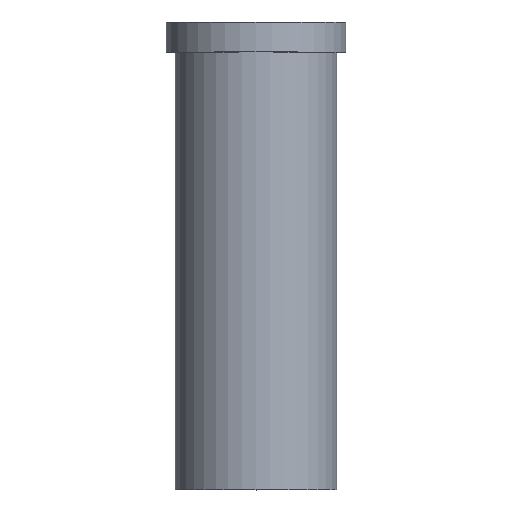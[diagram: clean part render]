
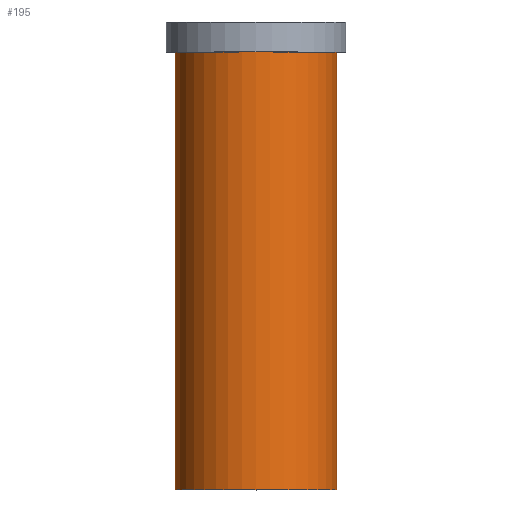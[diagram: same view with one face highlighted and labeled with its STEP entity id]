
A CAD part, top view. The second image highlights one B-rep face of the part: STEP entity #195.
In plain terms, the highlighted cylindrical face has radius 27 mm (diameter 54 mm), a full revolution.
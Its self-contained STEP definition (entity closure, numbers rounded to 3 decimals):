
#32=ORIENTED_EDGE('',*,*,#50,.T.);
#33=ORIENTED_EDGE('',*,*,#49,.F.);
#49=EDGE_CURVE('',#59,#59,#69,.T.);
#50=EDGE_CURVE('',#60,#60,#70,.T.);
#59=VERTEX_POINT('',#280);
#60=VERTEX_POINT('',#283);
#69=CIRCLE('',#213,27.);
#70=CIRCLE('',#215,27.);
#82=EDGE_LOOP('',(#32));
#83=EDGE_LOOP('',(#33));
#102=FACE_BOUND('',#82,.T.);
#103=FACE_BOUND('',#83,.T.);
#117=CYLINDRICAL_SURFACE('',#214,27.);
#195=ADVANCED_FACE('',(#102,#103),#117,.T.);
#213=AXIS2_PLACEMENT_3D('',#279,#241,#242);
#214=AXIS2_PLACEMENT_3D('',#281,#243,#244);
#215=AXIS2_PLACEMENT_3D('',#282,#245,#246);
#241=DIRECTION('',(0.,-1.,0.));
#242=DIRECTION('',(0.,0.,-1.));
#243=DIRECTION('',(0.,-1.,0.));
#244=DIRECTION('',(0.,0.,-1.));
#245=DIRECTION('',(0.,-1.,0.));
#246=DIRECTION('',(0.,0.,-1.));
#279=CARTESIAN_POINT('',(0.,0.,0.));
#280=CARTESIAN_POINT('',(0.,0.,-27.));
#281=CARTESIAN_POINT('',(0.,0.,0.));
#282=CARTESIAN_POINT('',(0.,146.,0.));
#283=CARTESIAN_POINT('',(0.,146.,-27.));
